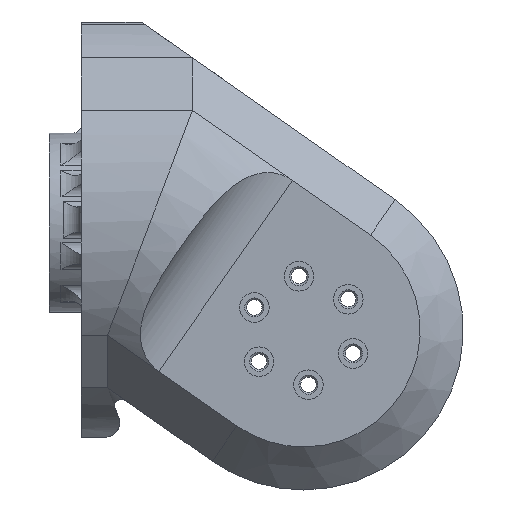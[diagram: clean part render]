
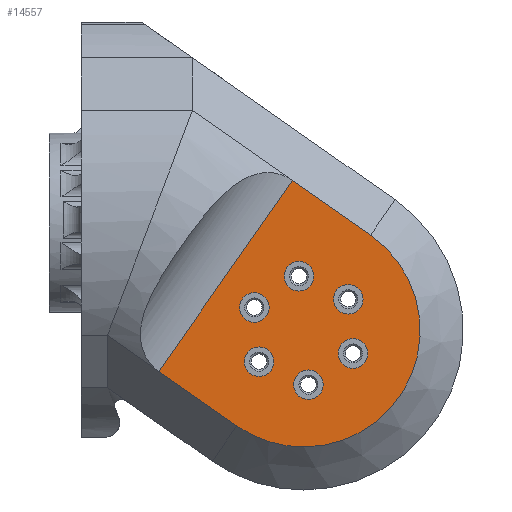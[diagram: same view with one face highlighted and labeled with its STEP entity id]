
A CAD part, front view. The second image highlights one B-rep face of the part: STEP entity #14557.
In plain terms, the highlighted planar face has unit normal (0, -1, 0).
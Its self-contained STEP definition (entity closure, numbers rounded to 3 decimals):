
#4016=DIRECTION('',(0.574,0.,0.819));
#4017=VECTOR('',#4016,64.95);
#4018=CARTESIAN_POINT('',(85.622,-51.5,-105.372));
#4019=LINE('',#4018,#4017);
#4020=DIRECTION('',(0.819,0.,-0.574));
#4021=VECTOR('',#4020,26.553);
#4022=CARTESIAN_POINT('',(122.876,-51.5,-52.168));
#4023=LINE('',#4022,#4021);
#4024=CARTESIAN_POINT('',(126.,-51.5,-94.));
#4025=DIRECTION('',(0.,1.,0.));
#4026=DIRECTION('',(0.574,0.,0.819));
#4027=AXIS2_PLACEMENT_3D('',#4024,#4025,#4026);
#4029=CARTESIAN_POINT('',(126.,-51.5,-94.));
#4030=DIRECTION('',(0.,1.,0.));
#4031=DIRECTION('',(0.,0.,-1.));
#4032=AXIS2_PLACEMENT_3D('',#4029,#4030,#4031);
#4034=DIRECTION('',(-0.819,0.,0.574));
#4035=VECTOR('',#4034,26.553);
#4036=CARTESIAN_POINT('',(107.373,-51.5,-120.602));
#4037=LINE('',#4036,#4035);
#4038=CARTESIAN_POINT('',(112.242,-51.5,-87.585));
#4039=DIRECTION('',(0.,-1.,0.));
#4040=DIRECTION('',(0.,0.,-1.));
#4041=AXIS2_PLACEMENT_3D('',#4038,#4039,#4040);
#4043=CARTESIAN_POINT('',(112.242,-51.5,-87.585));
#4044=DIRECTION('',(0.,-1.,0.));
#4045=DIRECTION('',(0.,0.,1.));
#4046=AXIS2_PLACEMENT_3D('',#4043,#4044,#4045);
#4048=CARTESIAN_POINT('',(138.435,-51.5,-85.293));
#4049=DIRECTION('',(0.,-1.,0.));
#4050=DIRECTION('',(0.,0.,-1.));
#4051=AXIS2_PLACEMENT_3D('',#4048,#4049,#4050);
#4053=CARTESIAN_POINT('',(138.435,-51.5,-85.293));
#4054=DIRECTION('',(0.,-1.,0.));
#4055=DIRECTION('',(0.,0.,1.));
#4056=AXIS2_PLACEMENT_3D('',#4053,#4054,#4055);
#4058=CARTESIAN_POINT('',(139.758,-51.5,-100.415));
#4059=DIRECTION('',(0.,-1.,0.));
#4060=DIRECTION('',(0.,0.,-1.));
#4061=AXIS2_PLACEMENT_3D('',#4058,#4059,#4060);
#4063=CARTESIAN_POINT('',(139.758,-51.5,-100.415));
#4064=DIRECTION('',(0.,-1.,0.));
#4065=DIRECTION('',(0.,0.,1.));
#4066=AXIS2_PLACEMENT_3D('',#4063,#4064,#4065);
#4068=CARTESIAN_POINT('',(127.323,-51.5,-109.122));
#4069=DIRECTION('',(0.,-1.,0.));
#4070=DIRECTION('',(0.,0.,-1.));
#4071=AXIS2_PLACEMENT_3D('',#4068,#4069,#4070);
#4073=CARTESIAN_POINT('',(127.323,-51.5,-109.122));
#4074=DIRECTION('',(0.,-1.,0.));
#4075=DIRECTION('',(0.,0.,1.));
#4076=AXIS2_PLACEMENT_3D('',#4073,#4074,#4075);
#4078=CARTESIAN_POINT('',(113.565,-51.5,-102.707));
#4079=DIRECTION('',(0.,-1.,0.));
#4080=DIRECTION('',(0.,0.,-1.));
#4081=AXIS2_PLACEMENT_3D('',#4078,#4079,#4080);
#4083=CARTESIAN_POINT('',(113.565,-51.5,-102.707));
#4084=DIRECTION('',(0.,-1.,0.));
#4085=DIRECTION('',(0.,0.,1.));
#4086=AXIS2_PLACEMENT_3D('',#4083,#4084,#4085);
#4088=CARTESIAN_POINT('',(124.677,-51.5,-78.878));
#4089=DIRECTION('',(0.,-1.,0.));
#4090=DIRECTION('',(0.,0.,-1.));
#4091=AXIS2_PLACEMENT_3D('',#4088,#4089,#4090);
#4093=CARTESIAN_POINT('',(124.677,-51.5,-78.878));
#4094=DIRECTION('',(0.,-1.,0.));
#4095=DIRECTION('',(0.,0.,1.));
#4096=AXIS2_PLACEMENT_3D('',#4093,#4094,#4095);
#8199=CARTESIAN_POINT('',(124.677,-51.5,-83.003));
#8200=VERTEX_POINT('',#8199);
#8201=CARTESIAN_POINT('',(124.677,-51.5,-74.753));
#8202=VERTEX_POINT('',#8201);
#8203=CARTESIAN_POINT('',(85.622,-51.5,-105.372));
#8204=CARTESIAN_POINT('',(122.876,-51.5,-52.168));
#8205=VERTEX_POINT('',#8203);
#8206=VERTEX_POINT('',#8204);
#8207=CARTESIAN_POINT('',(144.627,-51.5,-67.398));
#8208=VERTEX_POINT('',#8207);
#8209=CARTESIAN_POINT('',(126.,-51.5,-126.475));
#8210=CARTESIAN_POINT('',(107.373,-51.5,-120.602));
#8211=VERTEX_POINT('',#8209);
#8212=VERTEX_POINT('',#8210);
#8213=CARTESIAN_POINT('',(112.242,-51.5,-91.71));
#8214=CARTESIAN_POINT('',(112.242,-51.5,-83.46));
#8215=VERTEX_POINT('',#8213);
#8216=VERTEX_POINT('',#8214);
#8217=CARTESIAN_POINT('',(138.435,-51.5,-89.418));
#8218=CARTESIAN_POINT('',(138.435,-51.5,-81.168));
#8219=VERTEX_POINT('',#8217);
#8220=VERTEX_POINT('',#8218);
#8221=CARTESIAN_POINT('',(139.758,-51.5,-104.54));
#8222=CARTESIAN_POINT('',(139.758,-51.5,-96.29));
#8223=VERTEX_POINT('',#8221);
#8224=VERTEX_POINT('',#8222);
#8225=CARTESIAN_POINT('',(127.323,-51.5,-113.247));
#8226=CARTESIAN_POINT('',(127.323,-51.5,-104.997));
#8227=VERTEX_POINT('',#8225);
#8228=VERTEX_POINT('',#8226);
#8229=CARTESIAN_POINT('',(113.565,-51.5,-106.832));
#8230=CARTESIAN_POINT('',(113.565,-51.5,-98.582));
#8231=VERTEX_POINT('',#8229);
#8232=VERTEX_POINT('',#8230);
#14509=CARTESIAN_POINT('',(47.738,-51.5,-82.296));
#14510=DIRECTION('',(0.,-1.,0.));
#14511=DIRECTION('',(1.,0.,0.));
#14512=AXIS2_PLACEMENT_3D('',#14509,#14510,#14511);
#14513=PLANE('',#14512);
#14514=ORIENTED_EDGE('',*,*,#14504,.T.);
#14515=ORIENTED_EDGE('',*,*,#14472,.T.);
#14516=ORIENTED_EDGE('',*,*,#14457,.T.);
#14517=ORIENTED_EDGE('',*,*,#14455,.T.);
#14518=ORIENTED_EDGE('',*,*,#14440,.T.);
#14519=EDGE_LOOP('',(#14514,#14515,#14516,#14517,#14518));
#14520=FACE_OUTER_BOUND('',#14519,.F.);
#14522=ORIENTED_EDGE('',*,*,#14521,.T.);
#14524=ORIENTED_EDGE('',*,*,#14523,.T.);
#14525=EDGE_LOOP('',(#14522,#14524));
#14526=FACE_BOUND('',#14525,.F.);
#14528=ORIENTED_EDGE('',*,*,#14527,.T.);
#14530=ORIENTED_EDGE('',*,*,#14529,.T.);
#14531=EDGE_LOOP('',(#14528,#14530));
#14532=FACE_BOUND('',#14531,.F.);
#14534=ORIENTED_EDGE('',*,*,#14533,.T.);
#14536=ORIENTED_EDGE('',*,*,#14535,.T.);
#14537=EDGE_LOOP('',(#14534,#14536));
#14538=FACE_BOUND('',#14537,.F.);
#14540=ORIENTED_EDGE('',*,*,#14539,.T.);
#14542=ORIENTED_EDGE('',*,*,#14541,.T.);
#14543=EDGE_LOOP('',(#14540,#14542));
#14544=FACE_BOUND('',#14543,.F.);
#14546=ORIENTED_EDGE('',*,*,#14545,.T.);
#14548=ORIENTED_EDGE('',*,*,#14547,.T.);
#14549=EDGE_LOOP('',(#14546,#14548));
#14550=FACE_BOUND('',#14549,.F.);
#14552=ORIENTED_EDGE('',*,*,#14551,.T.);
#14554=ORIENTED_EDGE('',*,*,#14553,.T.);
#14555=EDGE_LOOP('',(#14552,#14554));
#14556=FACE_BOUND('',#14555,.F.);
#14557=ADVANCED_FACE('',(#14520,#14526,#14532,#14538,#14544,#14550,#14556),
#14513,.T.);
#4028=CIRCLE('',#4027,32.475);
#4033=CIRCLE('',#4032,32.475);
#4042=CIRCLE('',#4041,4.125);
#4047=CIRCLE('',#4046,4.125);
#4052=CIRCLE('',#4051,4.125);
#4057=CIRCLE('',#4056,4.125);
#4062=CIRCLE('',#4061,4.125);
#4067=CIRCLE('',#4066,4.125);
#4072=CIRCLE('',#4071,4.125);
#4077=CIRCLE('',#4076,4.125);
#4082=CIRCLE('',#4081,4.125);
#4087=CIRCLE('',#4086,4.125);
#4092=CIRCLE('',#4091,4.125);
#4097=CIRCLE('',#4096,4.125);
#14440=EDGE_CURVE('',#8212,#8205,#4037,.T.);
#14455=EDGE_CURVE('',#8211,#8212,#4033,.T.);
#14457=EDGE_CURVE('',#8208,#8211,#4028,.T.);
#14472=EDGE_CURVE('',#8206,#8208,#4023,.T.);
#14504=EDGE_CURVE('',#8205,#8206,#4019,.T.);
#14521=EDGE_CURVE('',#8215,#8216,#4042,.T.);
#14523=EDGE_CURVE('',#8216,#8215,#4047,.T.);
#14527=EDGE_CURVE('',#8219,#8220,#4052,.T.);
#14529=EDGE_CURVE('',#8220,#8219,#4057,.T.);
#14533=EDGE_CURVE('',#8223,#8224,#4062,.T.);
#14535=EDGE_CURVE('',#8224,#8223,#4067,.T.);
#14539=EDGE_CURVE('',#8227,#8228,#4072,.T.);
#14541=EDGE_CURVE('',#8228,#8227,#4077,.T.);
#14545=EDGE_CURVE('',#8231,#8232,#4082,.T.);
#14547=EDGE_CURVE('',#8232,#8231,#4087,.T.);
#14551=EDGE_CURVE('',#8200,#8202,#4092,.T.);
#14553=EDGE_CURVE('',#8202,#8200,#4097,.T.);
